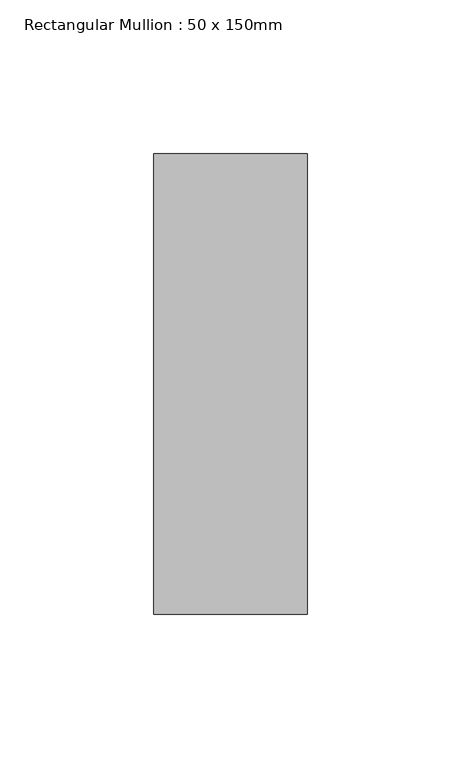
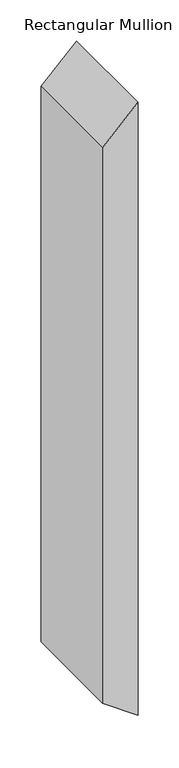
"""IFC4 building model written with IfcOpenShell, lengths in millimetres: member geometry, Rectangular Mullion : 50 x 150mm."""

from ifc_helpers import new_model, si_unit, frame, origin, place, context, project, spatial, polyline, outline, extrude, source, transform, mapped, element, save


def rectangular_mullion_50_x_150mm_766d3ac7(model_context):
    return source(origin(), model_context, "Body", "SweptSolid", [
        extrude(outline(polyline([(0.0, 0.0), (-50.0, -50.0), (-876.275195, -50.0), (-911.7372707, 0.0), (0.0, 0.0)])), frame((0.0, -75.0, 0.0), z_axis=(0.0, 1.0, 0.0), x_axis=(0.0, 0.0, 1.0)), (0.0, 0.0, 1.0), 150.0),
    ])


if __name__ == "__main__":
    model = new_model("IFC4")
    model_context = context("Model", 3, world=origin())
    ifc_project = project(units=[si_unit("LENGTHUNIT", "METRE", prefix="MILLI")], contexts=[model_context])
    site = spatial("IfcSite", under=ifc_project)
    building = spatial("IfcBuilding", under=site)
    placement = place(None, origin())
    rectangular_mullion_50_x_150mm_shape = rectangular_mullion_50_x_150mm_766d3ac7(model_context)
    element("IfcMember", 1, ObjectType="Rectangular Mullion : 50 x 150mm", at=placement, inside=building, context=model_context, shape_type="MappedRepresentation", body=[
        mapped(rectangular_mullion_50_x_150mm_shape, transform((0.0, 0.0, 0.0), x_axis=(1.0, 0.0, 0.0), y_axis=(0.0, 1.0, 0.0), z_axis=(0.0, 0.0, 1.0))),
    ])
    save(model, "model.ifc")
